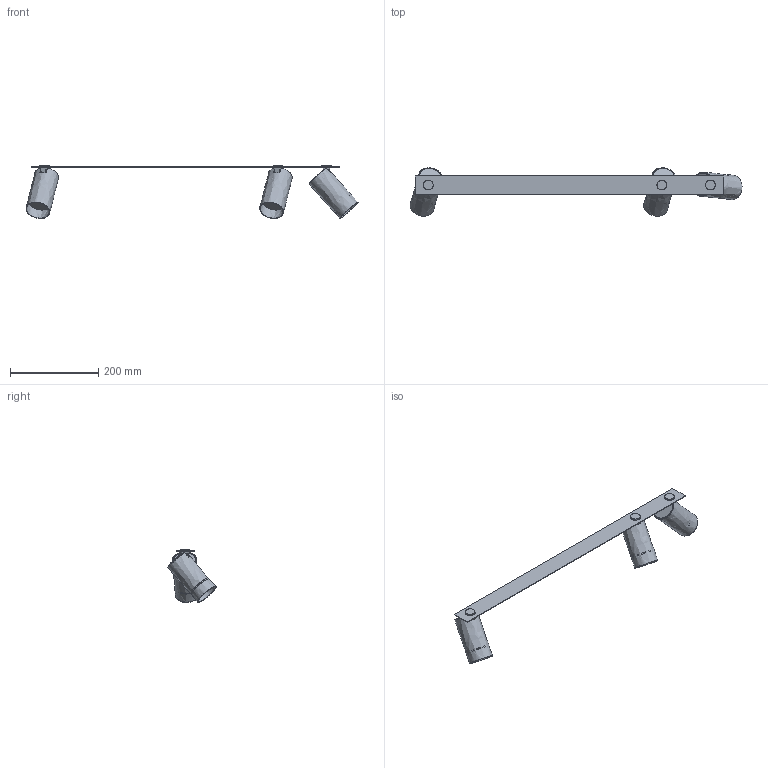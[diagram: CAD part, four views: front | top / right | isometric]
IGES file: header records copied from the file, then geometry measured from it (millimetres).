
Start section: SolidWorks IGES file using NURBS representation for surfaces
Global section: file name: Z:\Modele 3D_WWW\_KOLEKCJE_WWW\MONO\MONO-SURFACE\7746\MONO-SURFACE-III-BRASS-7746.IGS; native system: SolidWorks 2021; preprocessor: SolidWorks 2021; author: gabriela.tworek; date: 220124.111310; units: millimetre
Bounding box: 753.08 x 109.57 x 119.94 mm (x, y, z)
Surface area: 195246.8 mm2 (no closed solid volume)
Topology: 0 solids, 0 shells, 129 faces, 807 edges, 792 vertices
Faces by surface type: bspline 129
